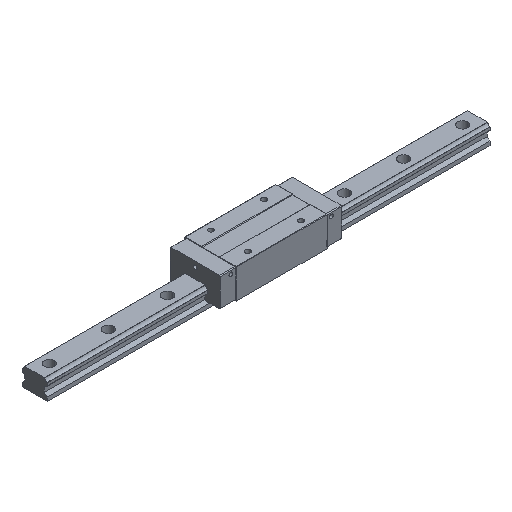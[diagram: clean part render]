
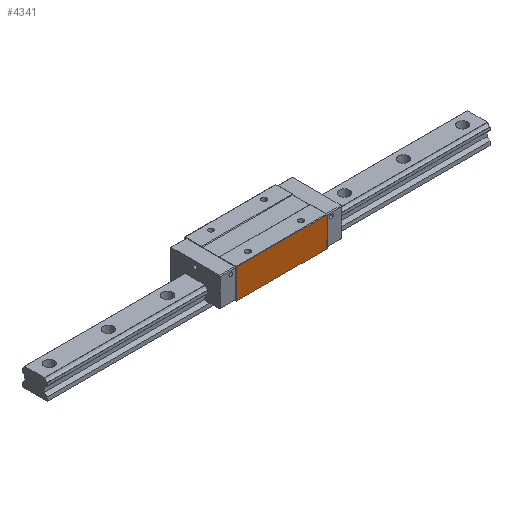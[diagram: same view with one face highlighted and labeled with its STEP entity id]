
A CAD part, isometric view. The second image highlights one B-rep face of the part: STEP entity #4341.
In plain terms, the highlighted planar face has unit normal (0, -1, 0).
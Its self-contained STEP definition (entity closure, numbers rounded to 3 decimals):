
#66 = DIRECTION ( 'NONE',  ( 1., 0., 0. ) ) ;
#129 = LINE ( 'NONE', #1003, #4043 ) ;
#693 = DIRECTION ( 'NONE',  ( -1., 0., 0. ) ) ;
#776 = VERTEX_POINT ( 'NONE', #3152 ) ;
#934 = PLANE ( 'NONE',  #3456 ) ;
#1003 = CARTESIAN_POINT ( 'NONE',  ( 61.5, -35., 7.5 ) ) ;
#1026 = FACE_OUTER_BOUND ( 'NONE', #3744, .T. ) ;
#1180 = CARTESIAN_POINT ( 'NONE',  ( 61.5, -35., 47.5 ) ) ;
#1256 = CARTESIAN_POINT ( 'NONE',  ( -61.5, -35., 48. ) ) ;
#1535 = VERTEX_POINT ( 'NONE', #3337 ) ;
#1632 = ORIENTED_EDGE ( 'NONE', *, *, #2934, .T. ) ;
#1634 = CARTESIAN_POINT ( 'NONE',  ( 61.5, -35., 48. ) ) ;
#1661 = DIRECTION ( 'NONE',  ( 0., 0., -1. ) ) ;
#1740 = CARTESIAN_POINT ( 'NONE',  ( -61.5, -35., 47.5 ) ) ;
#2026 = VECTOR ( 'NONE', #5460, 1000. ) ;
#2345 = VECTOR ( 'NONE', #1661, 1000. ) ;
#2697 = ORIENTED_EDGE ( 'NONE', *, *, #3666, .T. ) ;
#2758 = CARTESIAN_POINT ( 'NONE',  ( 61.5, -35., 48. ) ) ;
#2934 = EDGE_CURVE ( 'NONE', #4650, #5072, #3404, .T. ) ;
#3152 = CARTESIAN_POINT ( 'NONE',  ( 61.5, -35., 47.5 ) ) ;
#3337 = CARTESIAN_POINT ( 'NONE',  ( 61.5, -35., 7.5 ) ) ;
#3404 = LINE ( 'NONE', #1256, #2345 ) ;
#3456 = AXIS2_PLACEMENT_3D ( 'NONE', #2758, #4406, #66 ) ;
#3531 = ORIENTED_EDGE ( 'NONE', *, *, #4051, .F. ) ;
#3645 = DIRECTION ( 'NONE',  ( -1., 0., 0. ) ) ;
#3666 = EDGE_CURVE ( 'NONE', #776, #4650, #3816, .T. ) ;
#3730 = VECTOR ( 'NONE', #693, 1000. ) ;
#3744 = EDGE_LOOP ( 'NONE', ( #3531, #2697, #1632, #4915 ) ) ;
#3816 = LINE ( 'NONE', #1180, #3730 ) ;
#4043 = VECTOR ( 'NONE', #3645, 1000. ) ;
#4051 = EDGE_CURVE ( 'NONE', #776, #1535, #4235, .T. ) ;
#4235 = LINE ( 'NONE', #1634, #2026 ) ;
#4341 = ADVANCED_FACE ( 'NONE', ( #1026 ), #934, .F. ) ;
#4406 = DIRECTION ( 'NONE',  ( 0., 1., 0. ) ) ;
#4650 = VERTEX_POINT ( 'NONE', #1740 ) ;
#4915 = ORIENTED_EDGE ( 'NONE', *, *, #5148, .F. ) ;
#5072 = VERTEX_POINT ( 'NONE', #5349 ) ;
#5148 = EDGE_CURVE ( 'NONE', #1535, #5072, #129, .T. ) ;
#5349 = CARTESIAN_POINT ( 'NONE',  ( -61.5, -35., 7.5 ) ) ;
#5460 = DIRECTION ( 'NONE',  ( 0., 0., -1. ) ) ;
